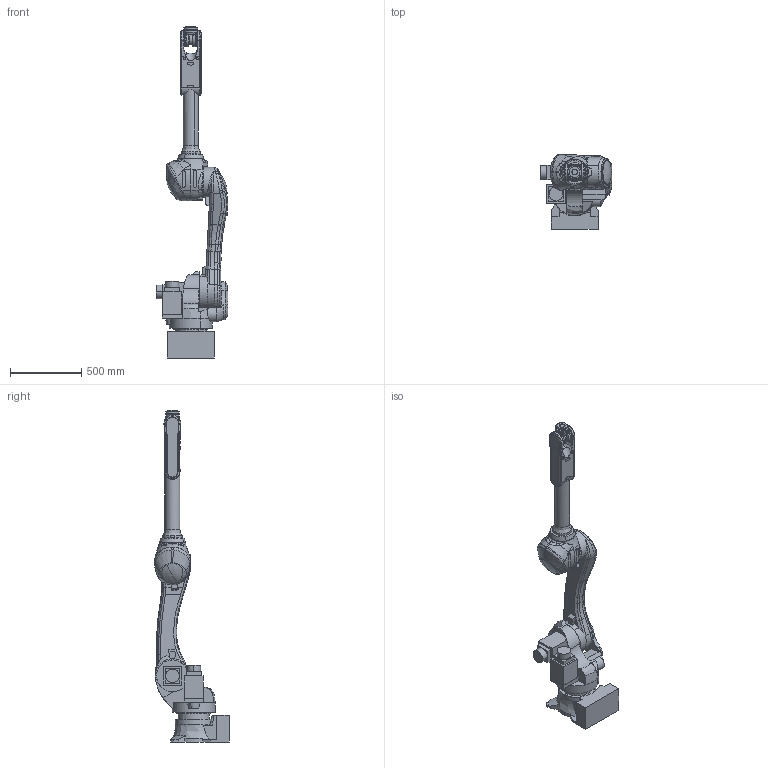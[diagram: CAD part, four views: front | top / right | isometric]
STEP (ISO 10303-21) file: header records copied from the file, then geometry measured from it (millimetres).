
FILE_DESCRIPTION(('CATIA V5 STEP Exchange'),'2;1');
FILE_NAME('F:\☆新しいフォルダ\【K-ROSET】\K-ROSET_モデル\ロボット\※ロボット\※R\_済_RS010L-A001\STEP\RS010L-A001.stp','2015-09-24T08:17:47+00:00',('none'),('none'),'Version 5-6 Release 2012','CATIA V5 STEP AP203','none');
FILE_SCHEMA(('CONFIG_CONTROL_DESIGN'));
Length unit declared in the file: millimetre
Products named in the file (1): RS010L-A001_catia-assy
Assembly tree (7 placements, depth 2):
  RS010L-A001_catia-assy
    #57
    #1767
    #6305
    #19696
    #28140
    #32853
    #34963
Bounding box: 502 x 524.98 x 2335 mm (x, y, z)
Volume: 87113095.9 mm3; surface area: 2747944.2 mm2
Topology: 7 solids, 7 shells, 584 faces, 1553 edges, 1000 vertices
Faces by surface type: bspline 184, plane 183, cylinder 154, revolution 63
Entity records: 35292 total; most frequent: CARTESIAN_POINT 22913, ORIENTED_EDGE 3090, EDGE_CURVE 1545, DIRECTION 1468, VERTEX_POINT 1000, B_SPLINE_CURVE_WITH_KNOTS 873, AXIS2_PLACEMENT_3D 614, EDGE_LOOP 609
